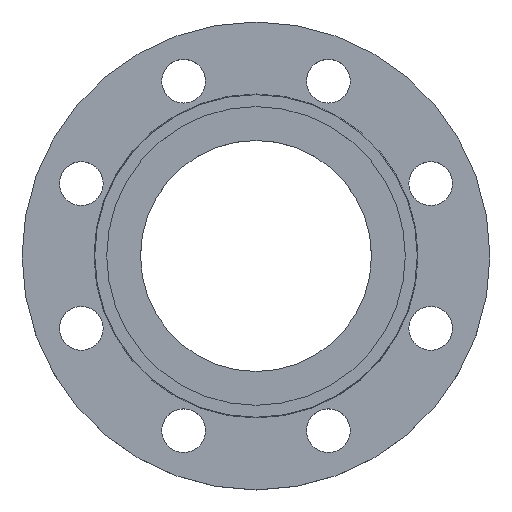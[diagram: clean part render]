
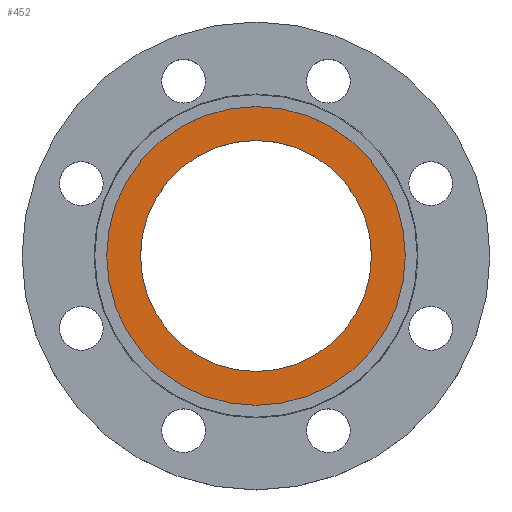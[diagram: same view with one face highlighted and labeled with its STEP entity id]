
A CAD part, top view. The second image highlights one B-rep face of the part: STEP entity #452.
In plain terms, the highlighted planar face has unit normal (0, 0, 1).
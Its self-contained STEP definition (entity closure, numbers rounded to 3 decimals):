
#20 = DIRECTION ( 'NONE',  ( -1., 0., 0. ) ) ;
#21 = DIRECTION ( 'NONE',  ( 0., 0., -1. ) ) ;
#22 = CARTESIAN_POINT ( 'NONE',  ( 0., 0., -4.5 ) ) ;
#30 = AXIS2_PLACEMENT_3D ( 'NONE', #22, #21, #20 ) ;
#50 = EDGE_CURVE ( 'NONE', #950, #956, #469, .T. ) ;
#87 = DIRECTION ( 'NONE',  ( 1., 0., 0. ) ) ;
#88 = DIRECTION ( 'NONE',  ( 0., 0., 1. ) ) ;
#91 = CARTESIAN_POINT ( 'NONE',  ( 75., 0., -4.5 ) ) ;
#92 = PLANE ( 'NONE',  #241 ) ;
#93 = FACE_OUTER_BOUND ( 'NONE', #862, .T. ) ;
#97 = FACE_BOUND ( 'NONE', #899, .T. ) ;
#145 = CIRCLE ( 'NONE', #149, 58. ) ;
#149 = AXIS2_PLACEMENT_3D ( 'NONE', #310, #567, #775 ) ;
#241 = AXIS2_PLACEMENT_3D ( 'NONE', #91, #88, #87 ) ;
#248 = CIRCLE ( 'NONE', #265, 75. ) ;
#254 = EDGE_CURVE ( 'NONE', #936, #934, #248, .T. ) ;
#265 = AXIS2_PLACEMENT_3D ( 'NONE', #508, #509, #510 ) ;
#310 = CARTESIAN_POINT ( 'NONE',  ( 0., 0., -4.5 ) ) ;
#330 = CIRCLE ( 'NONE', #30, 75. ) ;
#348 = CARTESIAN_POINT ( 'NONE',  ( 58., 0., -4.5 ) ) ;
#389 = CARTESIAN_POINT ( 'NONE',  ( -58., 0., -4.5 ) ) ;
#414 = AXIS2_PLACEMENT_3D ( 'NONE', #964, #965, #966 ) ;
#452 = ADVANCED_FACE ( 'NONE', ( #97, #93 ), #92, .T. ) ;
#469 = CIRCLE ( 'NONE', #414, 58. ) ;
#508 = CARTESIAN_POINT ( 'NONE',  ( 0., 0., -4.5 ) ) ;
#509 = DIRECTION ( 'NONE',  ( 0., 0., -1. ) ) ;
#510 = DIRECTION ( 'NONE',  ( -1., 0., 0. ) ) ;
#531 = CARTESIAN_POINT ( 'NONE',  ( 75., 0., -4.5 ) ) ;
#567 = DIRECTION ( 'NONE',  ( 0., 0., -1. ) ) ;
#596 = EDGE_CURVE ( 'NONE', #934, #936, #330, .T. ) ;
#664 = EDGE_CURVE ( 'NONE', #956, #950, #145, .T. ) ;
#757 = CARTESIAN_POINT ( 'NONE',  ( -75., 0., -4.5 ) ) ;
#775 = DIRECTION ( 'NONE',  ( 1., 0., 0. ) ) ;
#792 = ORIENTED_EDGE ( 'NONE', *, *, #50, .T. ) ;
#794 = ORIENTED_EDGE ( 'NONE', *, *, #664, .T. ) ;
#796 = ORIENTED_EDGE ( 'NONE', *, *, #254, .F. ) ;
#797 = ORIENTED_EDGE ( 'NONE', *, *, #596, .F. ) ;
#862 = EDGE_LOOP ( 'NONE', ( #796, #797 ) ) ;
#899 = EDGE_LOOP ( 'NONE', ( #792, #794 ) ) ;
#934 = VERTEX_POINT ( 'NONE', #531 ) ;
#936 = VERTEX_POINT ( 'NONE', #757 ) ;
#950 = VERTEX_POINT ( 'NONE', #389 ) ;
#956 = VERTEX_POINT ( 'NONE', #348 ) ;
#964 = CARTESIAN_POINT ( 'NONE',  ( 0., 0., -4.5 ) ) ;
#965 = DIRECTION ( 'NONE',  ( 0., 0., -1. ) ) ;
#966 = DIRECTION ( 'NONE',  ( 1., 0., 0. ) ) ;
